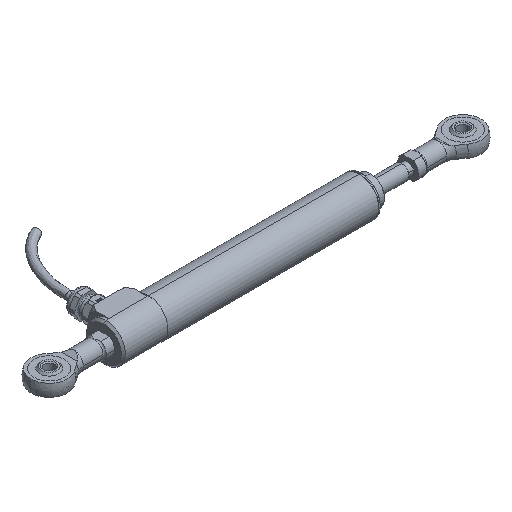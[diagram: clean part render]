
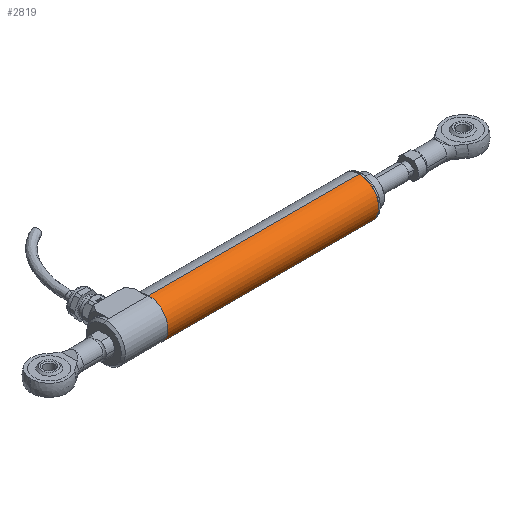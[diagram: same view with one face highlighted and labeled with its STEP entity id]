
A CAD part, isometric view. The second image highlights one B-rep face of the part: STEP entity #2819.
In plain terms, the highlighted cylindrical face has radius 9.525 mm (diameter 19.05 mm), a partial arc.
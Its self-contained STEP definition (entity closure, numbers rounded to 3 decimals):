
#22 = CARTESIAN_POINT ( 'NONE',  ( 72.95, 0., 0. ) ) ;
#70 = CARTESIAN_POINT ( 'NONE',  ( -31.05, 0., 9.525 ) ) ;
#181 = CARTESIAN_POINT ( 'NONE',  ( -31.05, 0., 0. ) ) ;
#185 = VERTEX_POINT ( 'NONE', #6046 ) ;
#375 = EDGE_CURVE ( 'NONE', #3648, #185, #1114, .T. ) ;
#585 = DIRECTION ( 'NONE',  ( -1., 0., 0. ) ) ;
#594 = DIRECTION ( 'NONE',  ( 0., 0., 1. ) ) ;
#763 = VECTOR ( 'NONE', #3855, 1000. ) ;
#776 = CIRCLE ( 'NONE', #2693, 9.525 ) ;
#1114 = CIRCLE ( 'NONE', #3250, 9.525 ) ;
#1381 = LINE ( 'NONE', #4880, #763 ) ;
#1425 = ORIENTED_EDGE ( 'NONE', *, *, #5422, .F. ) ;
#1494 = EDGE_LOOP ( 'NONE', ( #1425, #2938, #6300, #5168 ) ) ;
#1497 = DIRECTION ( 'NONE',  ( -1., 0., 0. ) ) ;
#2046 = VECTOR ( 'NONE', #1497, 1000. ) ;
#2057 = CARTESIAN_POINT ( 'NONE',  ( -31.05, 0., -9.525 ) ) ;
#2419 = CARTESIAN_POINT ( 'NONE',  ( 72.95, 0., -9.525 ) ) ;
#2442 = DIRECTION ( 'NONE',  ( 0., 0., 1. ) ) ;
#2456 = LINE ( 'NONE', #70, #2046 ) ;
#2693 = AXIS2_PLACEMENT_3D ( 'NONE', #181, #4470, #3119 ) ;
#2819 = ADVANCED_FACE ( 'NONE', ( #5853 ), #2917, .T. ) ;
#2917 = CYLINDRICAL_SURFACE ( 'NONE', #5817, 9.525 ) ;
#2938 = ORIENTED_EDGE ( 'NONE', *, *, #375, .T. ) ;
#3119 = DIRECTION ( 'NONE',  ( 0., 0., 1. ) ) ;
#3250 = AXIS2_PLACEMENT_3D ( 'NONE', #22, #585, #2442 ) ;
#3648 = VERTEX_POINT ( 'NONE', #2419 ) ;
#3722 = EDGE_CURVE ( 'NONE', #185, #5384, #2456, .T. ) ;
#3841 = CARTESIAN_POINT ( 'NONE',  ( -31.05, 0., 0. ) ) ;
#3855 = DIRECTION ( 'NONE',  ( -1., 0., 0. ) ) ;
#4390 = DIRECTION ( 'NONE',  ( -1., 0., 0. ) ) ;
#4470 = DIRECTION ( 'NONE',  ( -1., 0., 0. ) ) ;
#4553 = VERTEX_POINT ( 'NONE', #2057 ) ;
#4880 = CARTESIAN_POINT ( 'NONE',  ( -31.05, 0., -9.525 ) ) ;
#5168 = ORIENTED_EDGE ( 'NONE', *, *, #6291, .F. ) ;
#5384 = VERTEX_POINT ( 'NONE', #6130 ) ;
#5422 = EDGE_CURVE ( 'NONE', #3648, #4553, #1381, .T. ) ;
#5817 = AXIS2_PLACEMENT_3D ( 'NONE', #3841, #4390, #594 ) ;
#5853 = FACE_OUTER_BOUND ( 'NONE', #1494, .T. ) ;
#6046 = CARTESIAN_POINT ( 'NONE',  ( 72.95, 0., 9.525 ) ) ;
#6130 = CARTESIAN_POINT ( 'NONE',  ( -31.05, 0., 9.525 ) ) ;
#6291 = EDGE_CURVE ( 'NONE', #4553, #5384, #776, .T. ) ;
#6300 = ORIENTED_EDGE ( 'NONE', *, *, #3722, .T. ) ;
